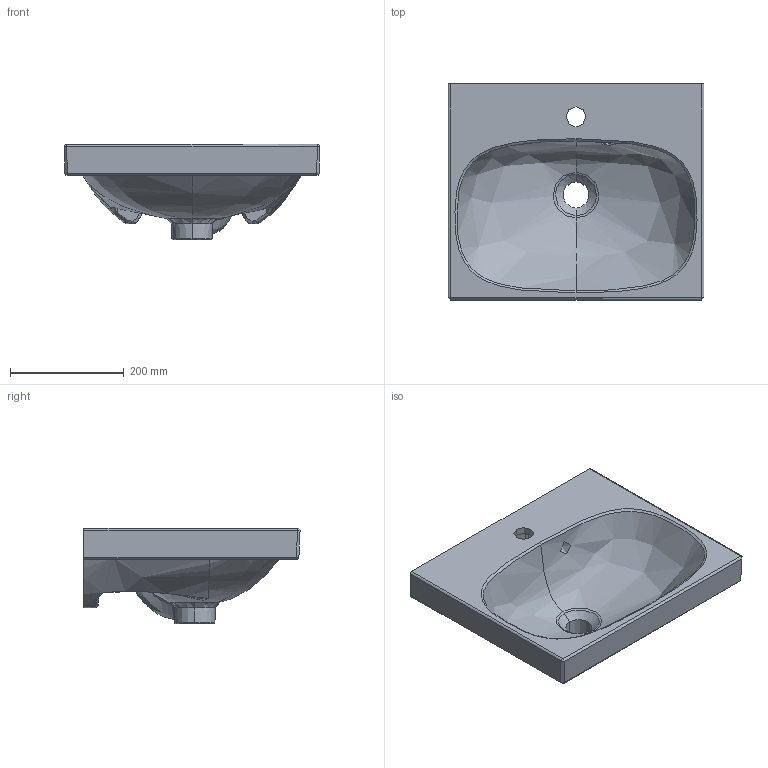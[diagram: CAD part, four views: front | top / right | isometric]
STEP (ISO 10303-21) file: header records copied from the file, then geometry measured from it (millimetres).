
FILE_DESCRIPTION(/* description */ (''),/* implementation_level */ '2;1');
FILE_NAME(/* name */ 'C:\Planerdaten\Export PLA\500.636.01.1\stp\500636.stp',/* time_stamp */ '2020-02-24T08:31:09+01:00',/* author */ ('JANAN'),/* organization */ (''),/* preprocessor_version */ 'ST-DEVELOPER v16.13',/* originating_system */ 'Autodesk Inventor 2018',/* authorisation */ '');
FILE_SCHEMA (('AUTOMOTIVE_DESIGN { 1 0 10303 214 3 1 1 }'));
Length unit declared in the file: millimetre
Products named in the file (1): HWB Ge+Acn B45 m/ÜLF m/HLo
Bounding box: 450.06 x 380.04 x 168 mm (x, y, z)
Volume: 6207439.1 mm3; surface area: 606334.8 mm2
Topology: 1 solids, 1 shells, 231 faces, 558 edges, 329 vertices
Faces by surface type: bspline 131, cylinder 59, plane 34, cone 5, torus 2
Full cylindrical faces by diameter (mm): 25 x1
Entity records: 23347 total; most frequent: CARTESIAN_POINT 18690, ORIENTED_EDGE 1112, EDGE_CURVE 556, DIRECTION 538, VERTEX_POINT 328, B_SPLINE_CURVE_WITH_KNOTS 318, EDGE_LOOP 240, STYLED_ITEM 232
